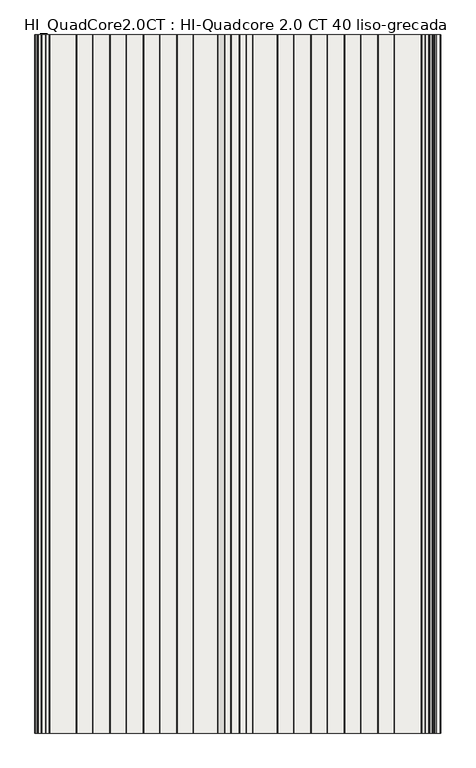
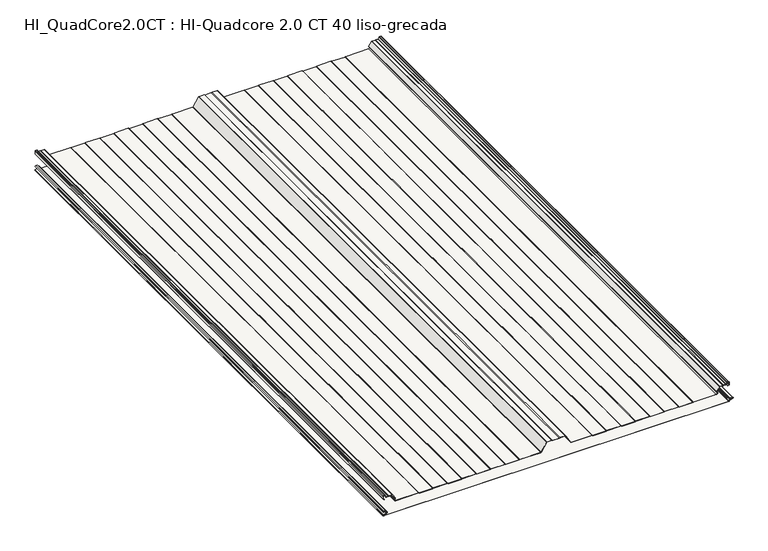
"""IFC4 building model written with IfcOpenShell, lengths in millimetres: slab geometry, HI_QuadCore2.0CT : HI-Quadcore 2.0 CT 40 liso-grecada."""

import ifcopenshell
import ifcopenshell.guid

model = None  # the IFC model being written
_history = None  # IfcOwnerHistory: only IFC2X3 demands one
_inside = {}  # id of a spatial element -> (the spatial element, [elements in it])
_under = {}  # id of a project, library or spatial element -> (it, [spatial elements below it])
_declared = {}  # id of a project -> (the project, [libraries it declares])
_typed = {}  # id of a type object -> (the type object, [elements of that type])
_made_of = {}  # id of a material, layer set ... -> (it, [elements and type objects made of it])


def new_model(schema):
    """Start an empty IFC model of exactly this schema.

    Asked for "IFC4X3", IfcOpenShell would pick the latest addendum, in which some entities
    have other attributes; the version numbers below select the first issue.
    IFC2X3 requires an IfcOwnerHistory on every rooted entity: one is made here for all.
    """
    global model, _history
    if schema == "IFC4X3":
        model = ifcopenshell.file(schema_version=(4, 3, 0, 0))
    else:
        model = ifcopenshell.file(schema=schema)
    _inside.clear()
    _under.clear()
    _declared.clear()
    _typed.clear()
    _made_of.clear()
    _history = None
    if model.schema == "IFC2X3":
        org = make("IfcOrganization", Name="unknown")
        user = make(
            "IfcPersonAndOrganization",
            ThePerson=make("IfcPerson", FamilyName="unknown"),
            TheOrganization=org,
        )
        app = make(
            "IfcApplication",
            ApplicationDeveloper=org,
            Version="unknown",
            ApplicationFullName="unknown",
            ApplicationIdentifier="unknown",
        )
        _history = make(
            "IfcOwnerHistory",
            OwningUser=user,
            OwningApplication=app,
            ChangeAction="ADDED",
            CreationDate=0,
        )
    return model


def make(cls, **values):
    """One entity of the class cls with the attributes given. An attribute that is None is left unset."""
    return model.create_entity(
        cls, **{name: value for name, value in values.items() if value is not None}
    )


def rooted(cls, **values):
    """An entity with a GlobalId (a new one), such as an element, a storey or a relation."""
    return make(cls, GlobalId=ifcopenshell.guid.new(), OwnerHistory=_history, **values)


def si_unit(unit_type, name, prefix=None):
    """IfcSIUnit, for example si_unit("LENGTHUNIT", "METRE", prefix="MILLI")."""
    return make("IfcSIUnit", UnitType=unit_type, Prefix=prefix, Name=name)


def assignment(units):
    """IfcUnitAssignment: the units of a project."""
    return None if units is None else make("IfcUnitAssignment", Units=units)


def point(xyz):
    """IfcCartesianPoint."""
    return None if xyz is None else make("IfcCartesianPoint", Coordinates=xyz)


def direction(xyz):
    """IfcDirection."""
    return None if xyz is None else make("IfcDirection", DirectionRatios=xyz)


def frame(location, z_axis=None, x_axis=None):
    """IfcAxis2Placement3D, a coordinate frame: its origin and axes. An axis left out is left unset."""
    return make(
        "IfcAxis2Placement3D",
        Location=point(location),
        Axis=direction(z_axis),
        RefDirection=direction(x_axis),
    )


def frame_2d(location, x_axis=None):
    """IfcAxis2Placement2D, a coordinate frame in the plane: its origin and x axis."""
    return make(
        "IfcAxis2Placement2D", Location=point(location), RefDirection=direction(x_axis)
    )


def origin():
    """The frame at (0, 0, 0) with its axes left unset."""
    return frame((0.0, 0.0, 0.0))


def place(relative_to, where):
    """IfcLocalPlacement: puts the frame where relative to a parent placement (None: the world)."""
    return make(
        "IfcLocalPlacement", PlacementRelTo=relative_to, RelativePlacement=where
    )


def context(
    kind, dimensions, precision=None, world=None, true_north=None, identifier=None
):
    """IfcGeometricRepresentationContext, for example the 3D "Model" context."""
    return make(
        "IfcGeometricRepresentationContext",
        ContextIdentifier=identifier,
        ContextType=kind,
        CoordinateSpaceDimension=dimensions,
        Precision=precision,
        WorldCoordinateSystem=world,
        TrueNorth=true_north,
    )


def project(units=None, contexts=None):
    """IfcProject with its units and contexts."""
    return rooted(
        "IfcProject",
        Name="project",
        RepresentationContexts=contexts,
        UnitsInContext=assignment(units),
    )


def spatial(cls, under=None, at=None, **own):
    """A site, building, storey or space (cls), placed at a placement, below another one or the project."""
    s = rooted(cls, ObjectPlacement=at, **own)
    if under is not None:
        _under.setdefault(under.id(), (under, []))[1].append(s)
    return s


def polyline(points):
    """IfcPolyline through the points."""
    return make("IfcPolyline", Points=[point(p) for p in points])


def circle_curve(where, radius):
    """IfcCircle in the frame where."""
    return make("IfcCircle", Position=where, Radius=radius)


def trimmed(basis, trim1, trim2, sense, master):
    """IfcTrimmedCurve: the piece of a basis curve between two trims."""
    return make(
        "IfcTrimmedCurve",
        BasisCurve=basis,
        Trim1=trim1,
        Trim2=trim2,
        SenseAgreement=sense,
        MasterRepresentation=master,
    )


def segment(curve, same_sense, transition):
    """IfcCompositeCurveSegment."""
    return make(
        "IfcCompositeCurveSegment",
        Transition=transition,
        SameSense=same_sense,
        ParentCurve=curve,
    )


def composite_curve(segments, self_intersect=None):
    """IfcCompositeCurve: segments joined end to end."""
    return make("IfcCompositeCurve", Segments=segments, SelfIntersect=self_intersect)


def outline(outer, holes=None, kind="AREA"):
    """IfcArbitraryClosedProfileDef: a profile drawn as a closed curve; with holes, ...WithVoids."""
    if holes is None:
        return make("IfcArbitraryClosedProfileDef", ProfileType=kind, OuterCurve=outer)
    return make(
        "IfcArbitraryProfileDefWithVoids",
        ProfileType=kind,
        OuterCurve=outer,
        InnerCurves=holes,
    )


def extrude(swept, where, along, depth):
    """IfcExtrudedAreaSolid: the profile swept, set in the frame where, extruded along a direction by depth."""
    return make(
        "IfcExtrudedAreaSolid",
        SweptArea=swept,
        Position=where,
        ExtrudedDirection=direction(along),
        Depth=depth,
    )


def shape(context_of_items, identifier, shape_type, items):
    """IfcShapeRepresentation: the items that make up one representation, for example the "Body"."""
    return make(
        "IfcShapeRepresentation",
        ContextOfItems=context_of_items,
        RepresentationIdentifier=identifier,
        RepresentationType=shape_type,
        Items=items,
    )


def source(mapping_origin, context_of_items, identifier, shape_type, items):
    """IfcRepresentationMap: a shape defined once, which mapped items show again and again."""
    return make(
        "IfcRepresentationMap",
        MappingOrigin=mapping_origin,
        MappedRepresentation=shape(context_of_items, identifier, shape_type, items),
    )


def transform(
    local_origin,
    x_axis=None,
    y_axis=None,
    z_axis=None,
    scale=None,
    scale2=None,
    scale3=None,
    uniform=True,
):
    """IfcCartesianTransformationOperator3D, or its non-uniform kind. x_axis, y_axis, z_axis: its Axis1, 2, 3."""
    if uniform:
        return make(
            "IfcCartesianTransformationOperator3D",
            Axis1=direction(x_axis),
            Axis2=direction(y_axis),
            LocalOrigin=point(local_origin),
            Scale=scale,
            Axis3=direction(z_axis),
        )
    return make(
        "IfcCartesianTransformationOperator3DnonUniform",
        Axis1=direction(x_axis),
        Axis2=direction(y_axis),
        LocalOrigin=point(local_origin),
        Scale=scale,
        Axis3=direction(z_axis),
        Scale2=scale2,
        Scale3=scale3,
    )


def mapped(mapping_source, mapping_target):
    """IfcMappedItem: shows the shape of a source again, moved by a transform."""
    return make(
        "IfcMappedItem", MappingSource=mapping_source, MappingTarget=mapping_target
    )


def made_of(thing, what):
    """Note that an element or type object is made of a material, layer set ...; save() writes the relation."""
    if what is not None:
        _made_of.setdefault(what.id(), (what, []))[1].append(thing)
    return thing


def element(
    cls,
    number,
    at=None,
    inside=None,
    cuts=None,
    type_object=None,
    material=None,
    context=None,
    identifier="Body",
    shape_type=None,
    held_by="IfcProductDefinitionShape",
    body=None,
    shapes=None,
    **own,
):
    """One element of the class cls, such as IfcWall. Its Tag is "e" and its number.

    at: its placement. inside: the storey or other place that contains it. cuts: it is an
    opening in that element (IfcRelVoidsElement). A single representation is given by context,
    identifier, shape_type and body (its items); several are given by shapes. held_by: the class
    of the entity that holds the representations. save() writes the other relations.
    """
    e = rooted(cls, Tag="e%d" % number, ObjectPlacement=at, **own)
    if body is not None:
        shapes = [shape(context, identifier, shape_type, body)]
    if shapes is not None:
        e.Representation = make(held_by, Representations=shapes)
    if inside is not None:
        _inside.setdefault(inside.id(), (inside, []))[1].append(e)
    if cuts is not None:
        rooted(
            "IfcRelVoidsElement", RelatingBuildingElement=cuts, RelatedOpeningElement=e
        )
    if type_object is not None:
        _typed.setdefault(type_object.id(), (type_object, []))[1].append(e)
    return made_of(e, material)


def aggregate(whole, parts):
    """IfcRelAggregates: a whole, such as a stair, and the parts it consists of."""
    return rooted("IfcRelAggregates", RelatingObject=whole, RelatedObjects=parts)


def save(model, path):
    """Write the relations noted so far, then the file.

    IfcRelAggregates (storeys below a building ...), IfcRelContainedInSpatialStructure (elements
    in a storey), IfcRelDefinesByType, IfcRelAssociatesMaterial and IfcRelDeclares: one each for
    every whole, place, type object, material and project.
    """
    for whole, parts in _under.values():
        aggregate(whole, parts)
    for where, things in _inside.values():
        rooted(
            "IfcRelContainedInSpatialStructure",
            RelatedElements=things,
            RelatingStructure=where,
        )
    for kind, things in _typed.values():
        rooted("IfcRelDefinesByType", RelatedObjects=things, RelatingType=kind)
    for what, things in _made_of.values():
        rooted("IfcRelAssociatesMaterial", RelatedObjects=things, RelatingMaterial=what)
    for by, libraries in _declared.values():
        rooted("IfcRelDeclares", RelatingContext=by, RelatedDefinitions=libraries)
    model.write(path)


def plane_surface(at):
    """IfcPlane: the flat surface through the origin of the frame at, square to its z axis."""
    return make("IfcPlane", Position=at)


def cylinder_surface(at, radius):
    """IfcCylindricalSurface: all points at the distance radius from the z axis of the frame at."""
    return make("IfcCylindricalSurface", Position=at, Radius=radius)


def revolved_surface(curve, axis_point, axis_direction):
    """IfcSurfaceOfRevolution: the curve turned about the line through axis_point along axis_direction."""
    return make(
        "IfcSurfaceOfRevolution",
        SweptCurve=make("IfcArbitraryOpenProfileDef", ProfileType="CURVE", Curve=curve),
        AxisPosition=make("IfcAxis1Placement", Location=point(axis_point), Axis=direction(axis_direction)),
    )


def advanced_brep(points, edges, surfaces, faces):
    """IfcAdvancedBrep: a solid bounded by faces that lie on surfaces and meet in shared edges.

    An edge is (start, end): straight between two places in points (the first is 0);
    or (start, end, curve); or (start, end, curve, False) where it runs against its curve.
    A face is (place in surfaces, loops), or (place, loops, False) where it looks against
    its surface's normal. A loop lists edges by number (the first is 1), with a minus sign
    where the edge is run from its end to its start. The first loop is the outer one.
    """
    corners = [point(p) for p in points]
    vertices = [make("IfcVertexPoint", VertexGeometry=c) for c in corners]
    made = []
    for start, end, *more in edges:
        made.append(
            make(
                "IfcEdgeCurve",
                EdgeStart=vertices[start],
                EdgeEnd=vertices[end],
                EdgeGeometry=more[0] if more else make("IfcPolyline", Points=[corners[start], corners[end]]),
                SameSense=more[1] if len(more) > 1 else True,
            )
        )
    hull = []
    for where, loops, *sense in faces:
        bounds = []
        for j, loop in enumerate(loops):
            ring = [make("IfcOrientedEdge", EdgeElement=made[abs(k) - 1], Orientation=k > 0) for k in loop]
            bounds.append(
                make(
                    "IfcFaceOuterBound" if j == 0 else "IfcFaceBound",
                    Bound=make("IfcEdgeLoop", EdgeList=ring),
                    Orientation=True,
                )
            )
        hull.append(make("IfcAdvancedFace", Bounds=bounds, FaceSurface=surfaces[where], SameSense=sense[0] if sense else True))
    return make("IfcAdvancedBrep", Outer=make("IfcClosedShell", CfsFaces=hull))


def hi_quadcore2_0ct_hi_quadcore_2_0_ct_40_liso_grecada_d7bc8760(model_context):
    return source(origin(), model_context, "Body", "SolidModel", [
        advanced_brep(
        [(1153.6125412, 0.0, 16.239302), (1151.6320413, 0.0, 14.2588021), (1153.3026044, 0.0, 12.2960661), (1161.7027672, 0.0, 10.9645747), (1161.6806488, 0.0, 5.2720118), (1151.7277556, 0.0, 3.7755366), (1152.0100062, 0.0, 0.0), (2297.9590685, 0.0, 0.0), (2300.1391392, 0.0, 2.1800708), (2302.6636211, 0.0, 5.0353254), (2310.9083654, 0.0, 6.0356531), (2310.9083654, 0.0, 10.2043469), (2300.9419234, 0.0, 11.413338), (2298.6324398, 0.0, 14.0237344), (2297.5187526, 0.0, 16.24), (2292.7624398, 0.0, 16.24), (2292.7624398, 0.0, 15.44), (2297.2282701, 0.0, 15.44), (2297.8324398, 0.0, 14.0237344), (2300.8450446, 0.0, 10.6192254), (2310.7843299, 0.0, 9.4135286), (2310.7843221, 0.0, 6.8264698), (2302.5664905, 0.0, 5.8294074), (2299.3391392, 0.0, 2.1800708), (2297.9590685, 0.0, 0.8), (1152.0100062, 0.0, 0.8), (1151.8467032, 0.0, 2.9844289), (1161.7995989, 0.0, 4.4809044), (1161.8278581, 0.0, 11.7547343), (1153.4279307, 0.0, 13.084535), (1152.4319301, 0.0, 14.2584682), (1153.6125693, 0.0, 15.4391074), (1157.510215, 0.0, 15.4391074), (1157.510215, 0.0, 16.239302), (1153.6125412, 2000.0, 16.239302), (1157.510215, 2000.0, 16.239302), (1157.510215, 2000.0, 15.4391074), (1153.6125693, 2000.0, 15.4391074), (1152.4319301, 2000.0, 14.2584682), (1153.4276302, 2000.0, 13.0866965), (1161.8278581, 2000.0, 11.7547343), (1161.7995989, 2000.0, 4.4809044), (1151.8467032, 2000.0, 2.9844289), (1152.0100062, 2000.0, 0.8), (2297.9590685, 2000.0, 0.8), (2299.3391392, 2000.0, 2.1800708), (2302.5664905, 2000.0, 5.8294074), (2310.7843221, 2000.0, 6.8264698), (2310.7843299, 2000.0, 9.4135286), (2300.8450446, 2000.0, 10.6192254), (2297.8324398, 2000.0, 14.0237344), (2297.2282701, 2000.0, 15.44), (2292.7624398, 2000.0, 15.44), (2292.7624398, 2000.0, 16.24), (2297.5187526, 2000.0, 16.24), (2298.6324398, 2000.0, 14.0237344), (2300.9419234, 2000.0, 11.413338), (2310.9083654, 2000.0, 10.2043469), (2310.9083654, 2000.0, 6.0356531), (2302.6636211, 2000.0, 5.0353254), (2300.1391392, 2000.0, 2.1800708), (2297.9590685, 2000.0, 0.0), (1152.0100062, 2000.0, 0.0), (1151.7277556, 2000.0, 3.7755366), (1161.6806488, 2000.0, 5.2720118), (1161.7027672, 2000.0, 10.9645747), (1153.3028397, 2000.0, 12.2943753), (1151.6320413, 2000.0, 14.2588021)],
        [
            (0, 1, circle_curve(frame((1153.6125412, 0.0, 14.2588021), z_axis=(0.0, -1.0, 0.0), x_axis=(1.0, 0.0, 0.0)), 1.9804999)),
            (1, 2, circle_curve(frame((1153.612237, 0.0, 14.2519163), z_axis=(0.0, -1.0, 0.0), x_axis=(1.0, 0.0, 0.0)), 1.9802076)),
            (2, 3),
            (3, 4, circle_curve(frame((1161.2524398, 0.0, 8.12), z_axis=(0.0, 1.0, 0.0), x_axis=(1.0, 0.0, 0.0)), 2.88)),
            (4, 5),
            (5, 6, circle_curve(frame((1152.0100062, 0.0, 1.8983185), z_axis=(0.0, -1.0, 0.0), x_axis=(1.0, 0.0, 0.0)), 1.8983185)),
            (6, 7),
            (7, 8, circle_curve(frame((2297.9590685, 0.0, 2.1800708), z_axis=(0.0, -1.0, 0.0), x_axis=(1.0, 0.0, 0.0)), 2.1800708)),
            (8, 9, circle_curve(frame((2303.0160638, 0.0, 2.1800708), z_axis=(0.0, 1.0, 0.0), x_axis=(1.0, 0.0, 0.0)), 2.8769246)),
            (9, 10),
            (10, 11, circle_curve(frame((2310.5224398, 0.0, 8.12), z_axis=(0.0, -1.0, 0.0), x_axis=(1.0, 0.0, 0.0)), 2.1197737)),
            (11, 12),
            (12, 13, circle_curve(frame((2301.2624398, 0.0, 14.0237344), z_axis=(0.0, 1.0, 0.0), x_axis=(1.0, 0.0, 0.0)), 2.63)),
            (13, 14, circle_curve(frame((2295.8703839, 0.0, 14.0237344), z_axis=(0.0, -1.0, 0.0), x_axis=(1.0, 0.0, 0.0)), 2.7620559)),
            (14, 15),
            (15, 16),
            (16, 17),
            (17, 18, circle_curve(frame((2295.8703839, 0.0, 14.0237344), z_axis=(0.0, 1.0, 0.0), x_axis=(1.0, 0.0, 0.0)), 1.9620559)),
            (18, 19, circle_curve(frame((2301.2624398, 0.0, 14.0237344), z_axis=(0.0, -1.0, 0.0), x_axis=(1.0, 0.0, 0.0)), 3.43)),
            (19, 20),
            (20, 21, circle_curve(frame((2310.5224398, 0.0, 8.12), z_axis=(0.0, 1.0, 0.0), x_axis=(1.0, 0.0, 0.0)), 1.3197737)),
            (21, 22),
            (22, 23, circle_curve(frame((2303.0160638, 0.0, 2.1800708), z_axis=(0.0, -1.0, 0.0), x_axis=(1.0, 0.0, 0.0)), 3.6769246)),
            (23, 24, circle_curve(frame((2297.9590685, 0.0, 2.1800708), z_axis=(0.0, 1.0, 0.0), x_axis=(1.0, 0.0, 0.0)), 1.3800708)),
            (24, 25),
            (25, 26, circle_curve(frame((1152.0100062, 0.0, 1.8983185), z_axis=(0.0, 1.0, 0.0), x_axis=(1.0, 0.0, 0.0)), 1.0983185)),
            (26, 27),
            (27, 28, circle_curve(frame((1161.2524398, 0.0, 8.12), z_axis=(0.0, -1.0, 0.0), x_axis=(1.0, 0.0, 0.0)), 3.68)),
            (28, 29),
            (29, 30, circle_curve(frame((1153.6121809, 0.0, 14.2524448), z_axis=(0.0, 1.0, 0.0), x_axis=(1.0, 0.0, 0.0)), 1.1802661)),
            (30, 31, circle_curve(frame((1153.6125693, 0.0, 14.2584682), z_axis=(0.0, 1.0, 0.0), x_axis=(1.0, 0.0, 0.0)), 1.1806391)),
            (31, 32),
            (32, 33),
            (33, 0),
            (34, 35),
            (35, 36),
            (36, 37),
            (37, 38, circle_curve(frame((1153.6125693, 2000.0, 14.2584682), z_axis=(0.0, -1.0, 0.0), x_axis=(1.0, 0.0, 0.0)), 1.1806391)),
            (38, 39, circle_curve(frame((1153.6121809, 2000.0, 14.2524448), z_axis=(0.0, -1.0, 0.0), x_axis=(1.0, 0.0, 0.0)), 1.1802661)),
            (39, 40),
            (40, 41, circle_curve(frame((1161.2524398, 2000.0, 8.12), z_axis=(0.0, 1.0, 0.0), x_axis=(1.0, 0.0, 0.0)), 3.68)),
            (41, 42),
            (42, 43, circle_curve(frame((1152.0100062, 2000.0, 1.8983185), z_axis=(0.0, -1.0, 0.0), x_axis=(1.0, 0.0, 0.0)), 1.0983185)),
            (43, 44),
            (44, 45, circle_curve(frame((2297.9590685, 2000.0, 2.1800708), z_axis=(0.0, -1.0, 0.0), x_axis=(1.0, 0.0, 0.0)), 1.3800708)),
            (45, 46, circle_curve(frame((2303.0160638, 2000.0, 2.1800708), z_axis=(0.0, 1.0, 0.0), x_axis=(1.0, 0.0, 0.0)), 3.6769246)),
            (46, 47),
            (47, 48, circle_curve(frame((2310.5224398, 2000.0, 8.12), z_axis=(0.0, -1.0, 0.0), x_axis=(1.0, 0.0, 0.0)), 1.3197737)),
            (48, 49),
            (49, 50, circle_curve(frame((2301.2624398, 2000.0, 14.0237344), z_axis=(0.0, 1.0, 0.0), x_axis=(1.0, 0.0, 0.0)), 3.43)),
            (50, 51, circle_curve(frame((2295.8703839, 2000.0, 14.0237344), z_axis=(0.0, -1.0, 0.0), x_axis=(1.0, 0.0, 0.0)), 1.9620559)),
            (51, 52),
            (52, 53),
            (53, 54),
            (54, 55, circle_curve(frame((2295.8703839, 2000.0, 14.0237344), z_axis=(0.0, 1.0, 0.0), x_axis=(1.0, 0.0, 0.0)), 2.7620559)),
            (55, 56, circle_curve(frame((2301.2624398, 2000.0, 14.0237344), z_axis=(0.0, -1.0, 0.0), x_axis=(1.0, 0.0, 0.0)), 2.63)),
            (56, 57),
            (57, 58, circle_curve(frame((2310.5224398, 2000.0, 8.12), z_axis=(0.0, 1.0, 0.0), x_axis=(1.0, 0.0, 0.0)), 2.1197737)),
            (58, 59),
            (59, 60, circle_curve(frame((2303.0160638, 2000.0, 2.1800708), z_axis=(0.0, -1.0, 0.0), x_axis=(1.0, 0.0, 0.0)), 2.8769246)),
            (60, 61, circle_curve(frame((2297.9590685, 2000.0, 2.1800708), z_axis=(0.0, 1.0, 0.0), x_axis=(1.0, 0.0, 0.0)), 2.1800708)),
            (61, 62),
            (62, 63, circle_curve(frame((1152.0100062, 2000.0, 1.8983185), z_axis=(0.0, 1.0, 0.0), x_axis=(1.0, 0.0, 0.0)), 1.8983185)),
            (63, 64),
            (64, 65, circle_curve(frame((1161.2524398, 2000.0, 8.12), z_axis=(0.0, -1.0, 0.0), x_axis=(1.0, 0.0, 0.0)), 2.88)),
            (65, 66),
            (66, 67, circle_curve(frame((1153.612237, 2000.0, 14.2519163), z_axis=(0.0, 1.0, 0.0), x_axis=(1.0, 0.0, 0.0)), 1.9802076)),
            (67, 34, circle_curve(frame((1153.6125412, 2000.0, 14.2588021), z_axis=(0.0, 1.0, 0.0), x_axis=(1.0, 0.0, 0.0)), 1.9804999)),
            (0, 34),
            (67, 1),
            (66, 2),
            (65, 3),
            (64, 4),
            (63, 5),
            (62, 6),
            (61, 7),
            (60, 8),
            (59, 9),
            (58, 10),
            (57, 11),
            (56, 12),
            (55, 13),
            (54, 14),
            (53, 15),
            (52, 16),
            (51, 17),
            (50, 18),
            (49, 19),
            (48, 20),
            (47, 21),
            (46, 22),
            (45, 23),
            (44, 24),
            (43, 25),
            (42, 26),
            (41, 27),
            (40, 28),
            (39, 29),
            (38, 30),
            (37, 31),
            (36, 32),
            (35, 33),
        ],
        [
            plane_surface(frame((1155.5930411, 0.0, 14.2588021), z_axis=(0.0, -1.0, 0.0), x_axis=(0.0, 0.0, 1.0))),
            plane_surface(frame((1155.5930411, 2000.0, 14.2588021), z_axis=(0.0, 1.0, 0.0), x_axis=(0.0, 0.0, -1.0))),
            cylinder_surface(frame((1153.6125412, 2000.0, 14.2588021), z_axis=(0.0, -1.0, 0.0), x_axis=(1.0, 0.0, 0.0)), 1.9804999),
            cylinder_surface(frame((1153.612237, 2000.0, 14.2519163), z_axis=(0.0, -1.0, 0.0), x_axis=(1.0, 0.0, 0.0)), 1.9802076),
            plane_surface(frame((1153.3028397, 0.0, 12.2943753), z_axis=(-0.15636367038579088, 0.0, -0.9876995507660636), x_axis=(0.0, 1.0, 0.0))),
            revolved_surface(polyline([(1164.1324398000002, 2000.0, 8.12), (1164.1324398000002, 0.0, 8.12)]), (1161.2524398, 2000.0, 8.12), (0.0, 1.0, 0.0)),
            plane_surface(frame((1161.6806488, 0.0, 5.2720118), z_axis=(-0.14868453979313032, 0.0, 0.9888846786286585), x_axis=(0.0, 1.0, 0.0))),
            cylinder_surface(frame((1152.0100062, 2000.0, 1.8983185), z_axis=(0.0, -1.0, 0.0), x_axis=(1.0, 0.0, 0.0)), 1.8983185),
            plane_surface(frame((1152.0100062, 0.0, 0.0), z_axis=(0.0, 0.0, -1.0), x_axis=(0.0, 1.0, 0.0))),
            cylinder_surface(frame((2297.9590685, 2000.0, 2.1800708), z_axis=(0.0, -1.0, 0.0), x_axis=(1.0, 0.0, 0.0)), 2.1800708),
            revolved_surface(polyline([(2305.8929884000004, 2000.0, 2.1800708), (2305.8929884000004, 0.0, 2.1800708)]), (2303.0160638, 2000.0, 2.1800708), (0.0, 1.0, 0.0)),
            plane_surface(frame((2302.6636211, 0.0, 5.0353254), z_axis=(0.12044584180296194, 0.0, -0.9927198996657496), x_axis=(0.0, 1.0, 0.0))),
            cylinder_surface(frame((2310.5224398, 2000.0, 8.12), z_axis=(0.0, -1.0, 0.0), x_axis=(1.0, 0.0, 0.0)), 2.1197737),
            plane_surface(frame((2310.9083654, 0.0, 10.2043469), z_axis=(0.12042339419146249, 0.0, 0.9927226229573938), x_axis=(0.0, 1.0, 0.0))),
            revolved_surface(polyline([(2303.8924398, 2000.0, 14.0237344), (2303.8924398, 0.0, 14.0237344)]), (2301.2624398, 2000.0, 14.0237344), (0.0, 1.0, 0.0)),
            cylinder_surface(frame((2295.8703839, 2000.0, 14.0237344), z_axis=(0.0, -1.0, 0.0), x_axis=(1.0, 0.0, 0.0)), 2.7620559),
            plane_surface(frame((2297.5187526, 0.0, 16.24), z_axis=(0.0, 0.0, 1.0), x_axis=(0.0, 1.0, 0.0))),
            plane_surface(frame((2292.7624398, 0.0, 16.24), z_axis=(-1.0, 0.0, 0.0), x_axis=(0.0, 1.0, 0.0))),
            plane_surface(frame((2292.7624398, 0.0, 15.44), z_axis=(0.0, 0.0, -1.0), x_axis=(0.0, 1.0, 0.0))),
            revolved_surface(polyline([(2297.8324398, 2000.0, 14.0237344), (2297.8324398, 0.0, 14.0237344)]), (2295.8703839, 2000.0, 14.0237344), (0.0, 1.0, 0.0)),
            cylinder_surface(frame((2301.2624398, 2000.0, 14.0237344), z_axis=(0.0, -1.0, 0.0), x_axis=(1.0, 0.0, 0.0)), 3.43),
            plane_surface(frame((2300.8450446, 0.0, 10.6192254), z_axis=(-0.12042339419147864, 0.0, -0.9927226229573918), x_axis=(0.0, 1.0, 0.0))),
            revolved_surface(polyline([(2311.8422135, 2000.0, 8.12), (2311.8422135, 0.0, 8.12)]), (2310.5224398, 2000.0, 8.12), (0.0, 1.0, 0.0)),
            plane_surface(frame((2310.7843221, 0.0, 6.8264698), z_axis=(-0.12044584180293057, 0.0, 0.9927198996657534), x_axis=(0.0, 1.0, 0.0))),
            cylinder_surface(frame((2303.0160638, 2000.0, 2.1800708), z_axis=(0.0, -1.0, 0.0), x_axis=(1.0, 0.0, 0.0)), 3.6769246),
            revolved_surface(polyline([(2299.3391392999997, 2000.0, 2.1800708), (2299.3391392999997, 0.0, 2.1800708)]), (2297.9590685, 2000.0, 2.1800708), (0.0, 1.0, 0.0)),
            plane_surface(frame((2297.9590685, 0.0, 0.8), z_axis=(0.0, 0.0, 1.0), x_axis=(0.0, 1.0, 0.0))),
            revolved_surface(polyline([(1153.1083247, 2000.0, 1.8983185), (1153.1083247, 0.0, 1.8983185)]), (1152.0100062, 2000.0, 1.8983185), (0.0, 1.0, 0.0)),
            plane_surface(frame((1151.8467032, 0.0, 2.9844289), z_axis=(0.14868453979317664, 0.0, -0.9888846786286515), x_axis=(0.0, 1.0, 0.0))),
            cylinder_surface(frame((1161.2524398, 2000.0, 8.12), z_axis=(0.0, -1.0, 0.0), x_axis=(1.0, 0.0, 0.0)), 3.68),
            plane_surface(frame((1161.8278581, 0.0, 11.7547343), z_axis=(0.15636367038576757, 0.0, 0.9876995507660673), x_axis=(0.0, 1.0, 0.0))),
            revolved_surface(polyline([(1154.792447, 2000.0, 14.2524448), (1154.792447, 0.0, 14.2524448)]), (1153.6121809, 2000.0, 14.2524448), (0.0, 1.0, 0.0)),
            revolved_surface(polyline([(1154.7932084, 2000.0, 14.2584682), (1154.7932084, 0.0, 14.2584682)]), (1153.6125693, 2000.0, 14.2584682), (0.0, 1.0, 0.0)),
            plane_surface(frame((1153.6125693, 0.0, 15.4391074), z_axis=(0.0, 0.0, -1.0), x_axis=(0.0, 1.0, 0.0))),
            plane_surface(frame((1157.510215, 0.0, 15.4391074), z_axis=(1.0, 0.0, 0.0), x_axis=(0.0, 1.0, 0.0))),
            plane_surface(frame((1157.510215, 0.0, 16.239302), z_axis=(0.0, 0.0, 1.0), x_axis=(0.0, 1.0, 0.0))),
        ],
        [
            (0, [[1, 2, 3, 4, 5, 6, 7, 8, 9, 10, 11, 12, 13, 14, 15, 16, 17, 18, 19, 20, 21, 22, 23, 24, 25, 26, 27, 28, 29, 30, 31, 32, 33, 34]]),
            (1, [[35, 36, 37, 38, 39, 40, 41, 42, 43, 44, 45, 46, 47, 48, 49, 50, 51, 52, 53, 54, 55, 56, 57, 58, 59, 60, 61, 62, 63, 64, 65, 66, 67, 68]]),
            (2, [[-1, 69, -68, 70]]),
            (3, [[-2, -70, -67, 71]]),
            (4, [[-3, -71, -66, 72]]),
            (5, [[-4, -72, -65, 73]]),
            (6, [[-5, -73, -64, 74]]),
            (7, [[-6, -74, -63, 75]]),
            (8, [[-7, -75, -62, 76]]),
            (9, [[-8, -76, -61, 77]]),
            (10, [[-9, -77, -60, 78]]),
            (11, [[-10, -78, -59, 79]]),
            (12, [[-11, -79, -58, 80]]),
            (13, [[-12, -80, -57, 81]]),
            (14, [[-13, -81, -56, 82]]),
            (15, [[-14, -82, -55, 83]]),
            (16, [[-15, -83, -54, 84]]),
            (17, [[-16, -84, -53, 85]]),
            (18, [[-17, -85, -52, 86]]),
            (19, [[-18, -86, -51, 87]]),
            (20, [[-19, -87, -50, 88]]),
            (21, [[-20, -88, -49, 89]]),
            (22, [[-21, -89, -48, 90]]),
            (23, [[-22, -90, -47, 91]]),
            (24, [[-23, -91, -46, 92]]),
            (25, [[-24, -92, -45, 93]]),
            (26, [[-25, -93, -44, 94]]),
            (27, [[-26, -94, -43, 95]]),
            (28, [[-27, -95, -42, 96]]),
            (29, [[-28, -96, -41, 97]]),
            (30, [[-29, -97, -40, 98]]),
            (31, [[-30, -98, -39, 99]]),
            (32, [[-31, -99, -38, 100]]),
            (33, [[-32, -100, -37, 101]]),
            (34, [[-33, -101, -36, 102]]),
            (35, [[-34, -102, -35, -69]]),
        ],
    ),
        extrude(outline(composite_curve([segment(polyline([(57.9163804, 1151.3824194), (55.7425833, 1155.1475465), (56.4354036, 1155.5475465), (58.6669358, 1151.6824194), (68.1, 1151.6824194)]), True, "CONTINUOUS"), segment(trimmed(circle_curve(frame_2d((68.1, 1152.7824194)), 1.1), [point((68.1, 1151.6824194))], [point((69.2, 1152.7824194))], True, "CARTESIAN"), True, "CONTINUOUS"), segment(polyline([(69.2, 1152.7824194), (69.2, 1156.3760168)]), True, "CONTINUOUS"), segment(trimmed(circle_curve(frame_2d((68.1, 1156.3760168)), 1.1), [point((69.2, 1156.3760168))], [point((68.5209518, 1157.3922843))], True, "CARTESIAN"), True, "CONTINUOUS"), segment(polyline([(68.5209518, 1157.3922843), (64.0383476, 1159.2490397)]), True, "CONTINUOUS"), segment(trimmed(circle_curve(frame_2d((64.93, 1161.4016791)), 2.33), [point((64.0383476, 1159.2490397))], [point((62.6, 1161.4016791))], False, "CARTESIAN"), True, "CONTINUOUS"), segment(polyline([(62.6, 1161.4016791), (62.6, 1168.1276514), (61.8110374, 1169.8324194), (62.6, 1171.5371875), (62.6, 1180.8643848)]), True, "CONTINUOUS"), segment(trimmed(circle_curve(frame_2d((61.5, 1180.8643848)), 1.1), [point((62.6, 1180.8643848))], [point((62.1230469, 1181.7709236))], True, "CARTESIAN"), True, "CONTINUOUS"), segment(polyline([(62.1230469, 1181.7709236), (48.5361221, 1191.1089583)]), True, "CONTINUOUS"), segment(trimmed(circle_curve(frame_2d((47.9130752, 1190.2024195)), 1.1), [point((48.5361221, 1191.1089583))], [point((47.0692788, 1190.9081159))], True, "CARTESIAN"), True, "CONTINUOUS"), segment(polyline([(47.0692788, 1190.9081159), (46.2744555, 1189.9577511)]), True, "CONTINUOUS"), segment(trimmed(circle_curve(frame_2d((43.3, 1192.7795617)), 4.1), [point((46.2744555, 1189.9577511))], [point((39.2, 1192.7795617))], False, "CARTESIAN"), True, "CONTINUOUS"), segment(polyline([(39.2, 1192.7795617), (39.2, 1268.8832267), (38.2, 1270.6152775), (38.2, 1315.6495614), (39.2, 1317.3816122), (39.2, 1364.8832267), (38.2, 1366.6152775), (38.2, 1411.6495614), (39.2, 1413.3816122), (39.2, 1460.8832267), (38.2, 1462.6152775), (38.2, 1507.6495614), (39.2, 1509.3816122), (39.2, 1556.8832267), (38.2, 1558.6152775), (38.2, 1603.6495614), (39.2, 1605.3816122), (39.2, 1674.3619266)]), True, "CONTINUOUS"), segment(trimmed(circle_curve(frame_2d((41.53, 1674.3619266)), 2.33), [point((39.2, 1674.3619266))], [point((40.2833287, 1676.330355))], False, "CARTESIAN"), True, "CONTINUOUS"), segment(polyline([(40.2833287, 1676.330355), (68.6885573, 1694.3203331)]), True, "CONTINUOUS"), segment(trimmed(circle_curve(frame_2d((68.1, 1695.2496341)), 1.1), [point((68.6885573, 1694.3203331))], [point((69.2, 1695.2496341))], True, "CARTESIAN"), True, "CONTINUOUS"), segment(polyline([(69.2, 1695.2496341), (69.2, 1711.3832267), (67.7, 1713.9813029), (67.7, 1736.283536), (69.2, 1738.8816122), (69.2, 1755.0152048)]), True, "CONTINUOUS"), segment(trimmed(circle_curve(frame_2d((68.1, 1755.0152048)), 1.1), [point((69.2, 1755.0152048))], [point((68.6885573, 1755.9445057))], True, "CARTESIAN"), True, "CONTINUOUS"), segment(polyline([(68.6885573, 1755.9445057), (40.2833287, 1773.9344839)]), True, "CONTINUOUS"), segment(trimmed(circle_curve(frame_2d((41.53, 1775.9029123)), 2.33), [point((40.2833287, 1773.9344839))], [point((39.2, 1775.9029123))], False, "CARTESIAN"), True, "CONTINUOUS"), segment(polyline([(39.2, 1775.9029123), (39.2, 1844.8832267), (38.2, 1846.6152775), (38.2, 1891.6495614), (39.2, 1893.3816122), (39.2, 1940.8832267), (38.2, 1942.6152775), (38.2, 1987.6495614), (39.2, 1989.3816122), (39.2, 2036.8832267), (38.2, 2038.6152775), (38.2, 2083.6495614), (39.2, 2085.3816122), (39.2, 2132.8832267), (38.2, 2134.6152775), (38.2, 2179.6495614), (39.2, 2181.3816122), (39.2, 2257.4852773)]), True, "CONTINUOUS"), segment(trimmed(circle_curve(frame_2d((43.3, 2257.4852773)), 4.1), [point((39.2, 2257.4852773))], [point((46.2744554, 2260.3070878))], False, "CARTESIAN"), True, "CONTINUOUS"), segment(polyline([(46.2744554, 2260.3070878), (47.0692788, 2259.356723)]), True, "CONTINUOUS"), segment(trimmed(circle_curve(frame_2d((47.9130753, 2260.0624194)), 1.1), [point((47.0692788, 2259.356723))], [point((48.5361221, 2259.1558806))], True, "CARTESIAN"), True, "CONTINUOUS"), segment(polyline([(48.5361221, 2259.1558806), (62.1230469, 2268.4939153)]), True, "CONTINUOUS"), segment(trimmed(circle_curve(frame_2d((61.5, 2269.4004541)), 1.1), [point((62.1230469, 2268.4939153))], [point((62.6, 2269.4004541))], True, "CARTESIAN"), True, "CONTINUOUS"), segment(polyline([(62.6, 2269.4004541), (62.6, 2278.7276514), (61.8110374, 2280.4324194), (62.6, 2282.1371875), (62.6, 2288.8631598)]), True, "CONTINUOUS"), segment(trimmed(circle_curve(frame_2d((64.93, 2288.8631598)), 2.33), [point((62.6, 2288.8631598))], [point((64.0383476, 2291.0157992))], False, "CARTESIAN"), True, "CONTINUOUS"), segment(polyline([(64.0383476, 2291.0157992), (68.5209518, 2292.8725546)]), True, "CONTINUOUS"), segment(trimmed(circle_curve(frame_2d((68.1, 2293.8888221)), 1.1), [point((68.5209518, 2292.8725546))], [point((69.2, 2293.8888221))], True, "CARTESIAN"), True, "CONTINUOUS"), segment(polyline([(69.2, 2293.8888221), (69.2, 2297.4824194)]), True, "CONTINUOUS"), segment(trimmed(circle_curve(frame_2d((68.1, 2297.4824194)), 1.1), [point((69.2, 2297.4824194))], [point((68.1, 2298.5824194))], True, "CARTESIAN"), True, "CONTINUOUS"), segment(polyline([(68.1, 2298.5824194), (58.6669358, 2298.5824194), (56.4354036, 2294.7172924), (55.7425833, 2295.1172924), (57.9163804, 2298.8824194)]), True, "CONTINUOUS"), segment(trimmed(circle_curve(frame_2d((58.7824058, 2298.3824194)), 1.0), [point((57.9163804, 2298.8824194))], [point((58.7824058, 2299.3824194))], False, "CARTESIAN"), True, "CONTINUOUS"), segment(polyline([(58.7824058, 2299.3824194), (68.1, 2299.3824194)]), True, "CONTINUOUS"), segment(trimmed(circle_curve(frame_2d((68.1, 2297.4824194)), 1.9), [point((68.1, 2299.3824194))], [point((70.0, 2297.4824194))], False, "CARTESIAN"), True, "CONTINUOUS"), segment(polyline([(70.0, 2297.4824194), (70.0, 2293.8888221)]), True, "CONTINUOUS"), segment(trimmed(circle_curve(frame_2d((68.1, 2293.8888221)), 1.9), [point((70.0, 2293.8888221))], [point((68.8270985, 2292.133451))], False, "CARTESIAN"), True, "CONTINUOUS"), segment(polyline([(68.8270985, 2292.133451), (64.3444944, 2290.2766955)]), True, "CONTINUOUS"), segment(trimmed(circle_curve(frame_2d((64.93, 2288.8631598)), 1.53), [point((64.3444944, 2290.2766955))], [point((63.4, 2288.8631598))], True, "CARTESIAN"), True, "CONTINUOUS"), segment(polyline([(63.4, 2288.8631598), (63.4, 2281.9610429), (62.6925567, 2280.4324194), (63.4, 2278.903796), (63.4, 2269.4004541)]), True, "CONTINUOUS"), segment(trimmed(circle_curve(frame_2d((61.5, 2269.4004541)), 1.9), [point((63.4, 2269.4004541))], [point((62.5761719, 2267.8346144))], False, "CARTESIAN"), True, "CONTINUOUS"), segment(polyline([(62.5761719, 2267.8346144), (48.9892471, 2258.4965797)]), True, "CONTINUOUS"), segment(trimmed(circle_curve(frame_2d((47.9130753, 2260.0624194)), 1.9), [point((48.9892471, 2258.4965797))], [point((46.4556086, 2258.8434892))], False, "CARTESIAN"), True, "CONTINUOUS"), segment(polyline([(46.4556086, 2258.8434892), (45.6777166, 2259.7736094)]), True, "CONTINUOUS"), segment(trimmed(circle_curve(frame_2d((43.3, 2257.4852773)), 3.3), [point((45.6777166, 2259.7736094))], [point((40.0, 2257.4852773))], True, "CARTESIAN"), True, "CONTINUOUS"), segment(polyline([(40.0, 2257.4852773), (40.0, 2181.5691766)]), True, "CONTINUOUS"), segment(trimmed(circle_curve(frame_2d((38.5, 2181.5691766)), 1.5), [point((40.0, 2181.5691766))], [point((39.7990381, 2180.8191766))], False, "CARTESIAN"), True, "CONTINUOUS"), segment(polyline([(39.7990381, 2180.8191766), (39.0, 2179.435202), (39.0, 2134.8296369), (39.7990381, 2133.4456623)]), True, "CONTINUOUS"), segment(trimmed(circle_curve(frame_2d((38.5, 2132.6956623)), 1.5), [point((39.7990381, 2133.4456623))], [point((40.0, 2132.6956623))], False, "CARTESIAN"), True, "CONTINUOUS"), segment(polyline([(40.0, 2132.6956623), (40.0, 2085.5691766)]), True, "CONTINUOUS"), segment(trimmed(circle_curve(frame_2d((38.5, 2085.5691766)), 1.5), [point((40.0, 2085.5691766))], [point((39.7990381, 2084.8191766))], False, "CARTESIAN"), True, "CONTINUOUS"), segment(polyline([(39.7990381, 2084.8191766), (39.0, 2083.435202), (39.0, 2038.8296369), (39.7990381, 2037.4456623)]), True, "CONTINUOUS"), segment(trimmed(circle_curve(frame_2d((38.5, 2036.6956623)), 1.5), [point((39.7990381, 2037.4456623))], [point((40.0, 2036.6956623))], False, "CARTESIAN"), True, "CONTINUOUS"), segment(polyline([(40.0, 2036.6956623), (40.0, 1989.5691766)]), True, "CONTINUOUS"), segment(trimmed(circle_curve(frame_2d((38.5, 1989.5691766)), 1.5), [point((40.0, 1989.5691766))], [point((39.7990381, 1988.8191766))], False, "CARTESIAN"), True, "CONTINUOUS"), segment(polyline([(39.7990381, 1988.8191766), (39.0, 1987.435202), (39.0, 1942.8296369), (39.7990381, 1941.4456623)]), True, "CONTINUOUS"), segment(trimmed(circle_curve(frame_2d((38.5, 1940.6956623)), 1.5), [point((39.7990381, 1941.4456623))], [point((40.0, 1940.6956623))], False, "CARTESIAN"), True, "CONTINUOUS"), segment(polyline([(40.0, 1940.6956623), (40.0, 1893.5691766)]), True, "CONTINUOUS"), segment(trimmed(circle_curve(frame_2d((38.5, 1893.5691766)), 1.5), [point((40.0, 1893.5691766))], [point((39.7990381, 1892.8191766))], False, "CARTESIAN"), True, "CONTINUOUS"), segment(polyline([(39.7990381, 1892.8191766), (39.0, 1891.435202), (39.0, 1846.8296369), (39.7990381, 1845.4456623)]), True, "CONTINUOUS"), segment(trimmed(circle_curve(frame_2d((38.5, 1844.6956623)), 1.5), [point((39.7990381, 1845.4456623))], [point((40.0, 1844.6956623))], False, "CARTESIAN"), True, "CONTINUOUS"), segment(polyline([(40.0, 1844.6956623), (40.0, 1775.9029123)]), True, "CONTINUOUS"), segment(trimmed(circle_curve(frame_2d((41.53, 1775.9029123)), 1.53), [point((40.0, 1775.9029123))], [point((40.7113703, 1774.6103391))], True, "CARTESIAN"), True, "CONTINUOUS"), segment(polyline([(40.7113703, 1774.6103391), (69.116599, 1756.620361)]), True, "CONTINUOUS"), segment(trimmed(circle_curve(frame_2d((68.1, 1755.0152048)), 1.9), [point((69.116599, 1756.620361))], [point((70.0, 1755.0152048))], False, "CARTESIAN"), True, "CONTINUOUS"), segment(polyline([(70.0, 1755.0152048), (70.0, 1738.6672528), (68.5, 1736.0691766), (68.5, 1714.1956623), (70.0, 1711.5975861), (70.0, 1695.2496341)]), True, "CONTINUOUS"), segment(trimmed(circle_curve(frame_2d((68.1, 1695.2496341)), 1.9), [point((70.0, 1695.2496341))], [point((69.116599, 1693.6444779))], False, "CARTESIAN"), True, "CONTINUOUS"), segment(polyline([(69.116599, 1693.6444779), (40.7113703, 1675.6544998)]), True, "CONTINUOUS"), segment(trimmed(circle_curve(frame_2d((41.53, 1674.3619266)), 1.53), [point((40.7113703, 1675.6544998))], [point((40.0, 1674.3619266))], True, "CARTESIAN"), True, "CONTINUOUS"), segment(polyline([(40.0, 1674.3619266), (40.0, 1605.5691766)]), True, "CONTINUOUS"), segment(trimmed(circle_curve(frame_2d((38.5, 1605.5691766)), 1.5), [point((40.0, 1605.5691766))], [point((39.7990381, 1604.8191766))], False, "CARTESIAN"), True, "CONTINUOUS"), segment(polyline([(39.7990381, 1604.8191766), (39.0, 1603.435202), (39.0, 1558.8296369), (39.7990381, 1557.4456623)]), True, "CONTINUOUS"), segment(trimmed(circle_curve(frame_2d((38.5, 1556.6956623)), 1.5), [point((39.7990381, 1557.4456623))], [point((40.0, 1556.6956623))], False, "CARTESIAN"), True, "CONTINUOUS"), segment(polyline([(40.0, 1556.6956623), (40.0, 1509.5691766)]), True, "CONTINUOUS"), segment(trimmed(circle_curve(frame_2d((38.5, 1509.5691766)), 1.5), [point((40.0, 1509.5691766))], [point((39.7990381, 1508.8191766))], False, "CARTESIAN"), True, "CONTINUOUS"), segment(polyline([(39.7990381, 1508.8191766), (39.0, 1507.435202), (39.0, 1462.8296369), (39.7990381, 1461.4456623)]), True, "CONTINUOUS"), segment(trimmed(circle_curve(frame_2d((38.5, 1460.6956623)), 1.5), [point((39.7990381, 1461.4456623))], [point((40.0, 1460.6956623))], False, "CARTESIAN"), True, "CONTINUOUS"), segment(polyline([(40.0, 1460.6956623), (40.0, 1413.5691766)]), True, "CONTINUOUS"), segment(trimmed(circle_curve(frame_2d((38.5, 1413.5691766)), 1.5), [point((40.0, 1413.5691766))], [point((39.7990381, 1412.8191766))], False, "CARTESIAN"), True, "CONTINUOUS"), segment(polyline([(39.7990381, 1412.8191766), (39.0, 1411.435202), (39.0, 1366.8296369), (39.7990381, 1365.4456623)]), True, "CONTINUOUS"), segment(trimmed(circle_curve(frame_2d((38.5, 1364.6956623)), 1.5), [point((39.7990381, 1365.4456623))], [point((40.0, 1364.6956623))], False, "CARTESIAN"), True, "CONTINUOUS"), segment(polyline([(40.0, 1364.6956623), (40.0, 1317.5691766)]), True, "CONTINUOUS"), segment(trimmed(circle_curve(frame_2d((38.5, 1317.5691766)), 1.5), [point((40.0, 1317.5691766))], [point((39.7990381, 1316.8191766))], False, "CARTESIAN"), True, "CONTINUOUS"), segment(polyline([(39.7990381, 1316.8191766), (39.0, 1315.435202), (39.0, 1270.8296369), (39.7990381, 1269.4456623)]), True, "CONTINUOUS"), segment(trimmed(circle_curve(frame_2d((38.5, 1268.6956623)), 1.5), [point((39.7990381, 1269.4456623))], [point((40.0, 1268.6956623))], False, "CARTESIAN"), True, "CONTINUOUS"), segment(polyline([(40.0, 1268.6956623), (40.0, 1192.7795617)]), True, "CONTINUOUS"), segment(trimmed(circle_curve(frame_2d((43.3, 1192.7795617)), 3.3), [point((40.0, 1192.7795617))], [point((45.6777166, 1190.4912296))], True, "CARTESIAN"), True, "CONTINUOUS"), segment(polyline([(45.6777166, 1190.4912296), (46.4556086, 1191.4213497)]), True, "CONTINUOUS"), segment(trimmed(circle_curve(frame_2d((47.9130752, 1190.2024195)), 1.9), [point((46.4556086, 1191.4213497))], [point((48.9892471, 1191.7682592))], False, "CARTESIAN"), True, "CONTINUOUS"), segment(polyline([(48.9892471, 1191.7682592), (62.5761719, 1182.4302246)]), True, "CONTINUOUS"), segment(trimmed(circle_curve(frame_2d((61.5, 1180.8643848)), 1.9), [point((62.5761719, 1182.4302246))], [point((63.4, 1180.8643848))], False, "CARTESIAN"), True, "CONTINUOUS"), segment(polyline([(63.4, 1180.8643848), (63.4, 1171.3610429), (62.6925567, 1169.8324194), (63.4, 1168.303796), (63.4, 1161.4016791)]), True, "CONTINUOUS"), segment(trimmed(circle_curve(frame_2d((64.93, 1161.4016791)), 1.53), [point((63.4, 1161.4016791))], [point((64.3444944, 1159.9881434))], True, "CARTESIAN"), True, "CONTINUOUS"), segment(polyline([(64.3444944, 1159.9881434), (68.8270985, 1158.1313879)]), True, "CONTINUOUS"), segment(trimmed(circle_curve(frame_2d((68.1, 1156.3760168)), 1.9), [point((68.8270985, 1158.1313879))], [point((70.0, 1156.3760168))], False, "CARTESIAN"), True, "CONTINUOUS"), segment(polyline([(70.0, 1156.3760168), (70.0, 1152.7824194)]), True, "CONTINUOUS"), segment(trimmed(circle_curve(frame_2d((68.1, 1152.7824194)), 1.9), [point((70.0, 1152.7824194))], [point((68.1, 1150.8824194))], False, "CARTESIAN"), True, "CONTINUOUS"), segment(polyline([(68.1, 1150.8824194), (58.7824058, 1150.8824194)]), True, "CONTINUOUS"), segment(trimmed(circle_curve(frame_2d((58.7824058, 1151.8824194)), 1.0), [point((58.7824058, 1150.8824194))], [point((57.9163804, 1151.3824194))], False, "CARTESIAN"), True, "CONTINUOUS")], self_intersect=False)), frame((0.0, 0.0, 0.0), z_axis=(0.0, 1.0, 0.0), x_axis=(0.0, 0.0, 1.0)), (0.0, 0.0, 1.0), 2000.0),
    ])


if __name__ == "__main__":
    model = new_model("IFC4")
    model_context = context("Model", 3, world=origin())
    ifc_project = project(units=[si_unit("LENGTHUNIT", "METRE", prefix="MILLI")], contexts=[model_context])
    site = spatial("IfcSite", under=ifc_project)
    building = spatial("IfcBuilding", under=site)
    placement = place(None, origin())
    hi_quadcore2_0ct_hi_quadcore_2_0_ct_40_liso_grecada_shape = hi_quadcore2_0ct_hi_quadcore_2_0_ct_40_liso_grecada_d7bc8760(model_context)
    element("IfcSlab", 1, ObjectType="HI_QuadCore2.0CT : HI-Quadcore 2.0 CT 40 liso-grecada", at=placement, inside=building, context=model_context, shape_type="MappedRepresentation", body=[
        mapped(hi_quadcore2_0ct_hi_quadcore_2_0_ct_40_liso_grecada_shape, transform((0.0, 0.0, 0.0), x_axis=(1.0, 0.0, 0.0), y_axis=(0.0, 1.0, 0.0), z_axis=(0.0, 0.0, 1.0))),
    ])
    save(model, "model.ifc")
